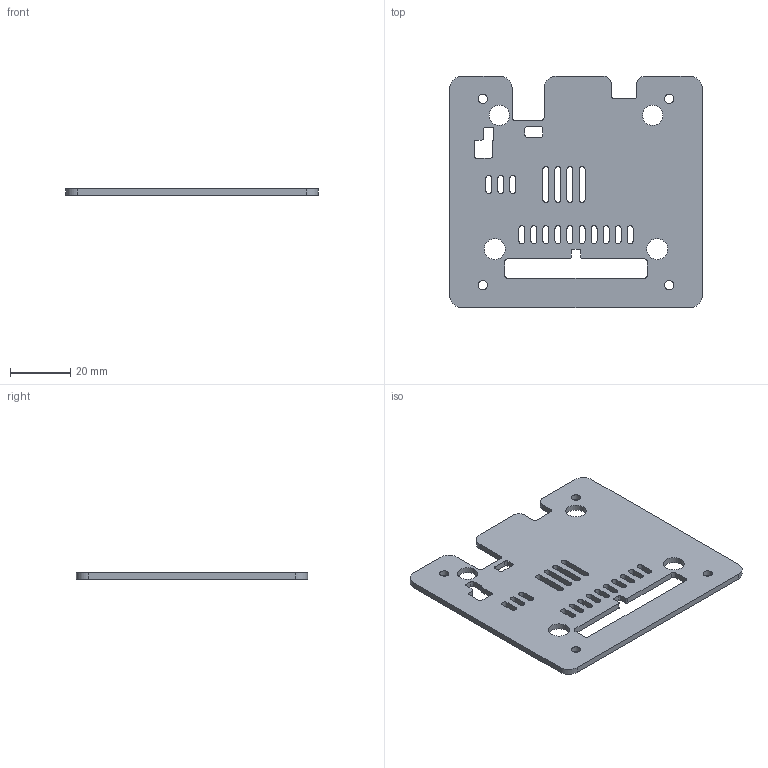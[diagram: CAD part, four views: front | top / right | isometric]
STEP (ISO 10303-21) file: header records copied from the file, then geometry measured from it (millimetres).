
FILE_DESCRIPTION(/* description */ ('Alibre Inc.'),/* implementation_level */ '2;1');
FILE_NAME(/* name */ 'export0',/* time_stamp */ '2018-10-16T15:26:09-07:00',/* author */ (''),/* organization */ (''),/* preprocessor_version */ 'ST-DEVELOPER v17',/* originating_system */ 'Alibre',/* authorisation */ '');
FILE_SCHEMA (('AUTOMOTIVE_DESIGN'));
Length unit declared in the file: millimetre
Bounding box: 84 x 77 x 2 mm (x, y, z)
Volume: 10838.9 mm3; surface area: 12698 mm2
Topology: 1 solids, 1 shells, 141 faces, 417 edges, 278 vertices
Faces by surface type: cylinder 74, plane 67
Full cylindrical faces by diameter (mm): 3.1 x4, 6.75 x2, 7 x2
Entity records: 4743 total; most frequent: CARTESIAN_POINT 819, ORIENTED_EDGE 818, DIRECTION 763, EDGE_CURVE 409, AXIS2_PLACEMENT_3D 286, VERTEX_POINT 278, VECTOR 255, LINE 255
